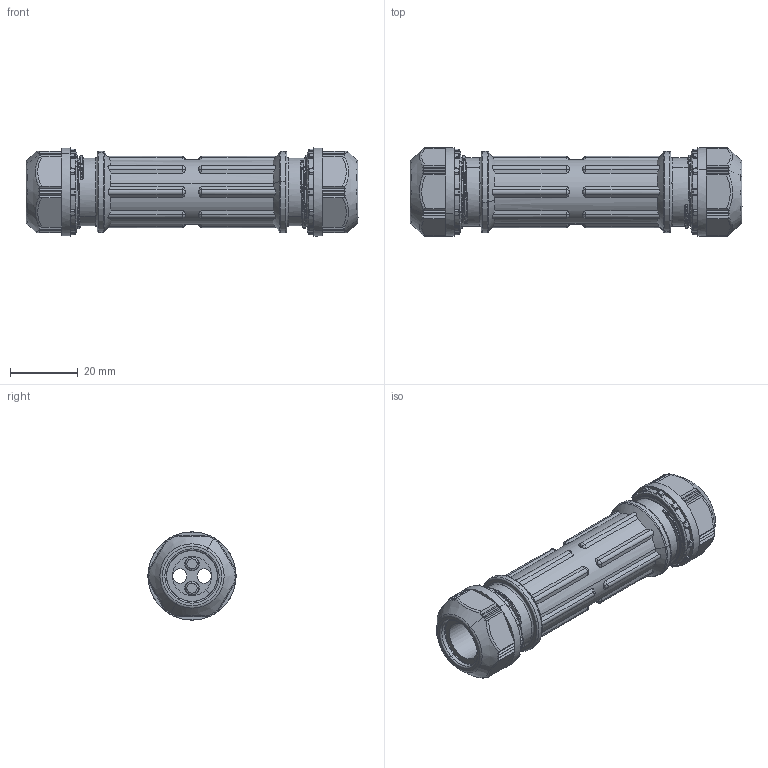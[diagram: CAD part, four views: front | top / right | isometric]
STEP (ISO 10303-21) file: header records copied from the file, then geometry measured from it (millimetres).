
FILE_DESCRIPTION(('Creo Elements/Direct Modeling STEP Export'),'2;1');
FILE_NAME('H16-0014-CL901-02_OA-QW11404SRSN.stp','2021-11-26T15:53:33',(''),(''),'Creo Elements/Direct Modeling STEP processor for AP214 (Solid Model)','Creo Elements/Direct Modeling 20.3B 05-Dec-2020 (C) Parametric Technology GmbH','');
FILE_SCHEMA(('AUTOMOTIVE_DESIGN { 1 0 10303 214 1 1 1 1 }'));
Length unit declared in the file: millimetre
Products named in the file (5): BB-040S_1; G13-11RS; G13-404RS; Body; OA-QW11404SRSN
Assembly tree (5 placements, depth 2):
  OA-QW11404SRSN
    Body
    G13-404RS
    G13-11RS
    BB-040S_1  x2
Bounding box: 97.97 x 26 x 26 mm (x, y, z)
Volume: 22207.8 mm3; surface area: 18626.7 mm2
Topology: 5 solids, 5 shells, 978 faces, 2472 edges, 1525 vertices
Faces by surface type: plane 378, bspline 224, cylinder 196, torus 126, cone 54
Entity records: 52337 total; most frequent: CARTESIAN_POINT 33120, ORIENTED_EDGE 4828, DIRECTION 2632, EDGE_CURVE 2414, VERTEX_POINT 1482, EDGE_LOOP 978, FACE_OUTER_BOUND 958, ADVANCED_FACE 958
